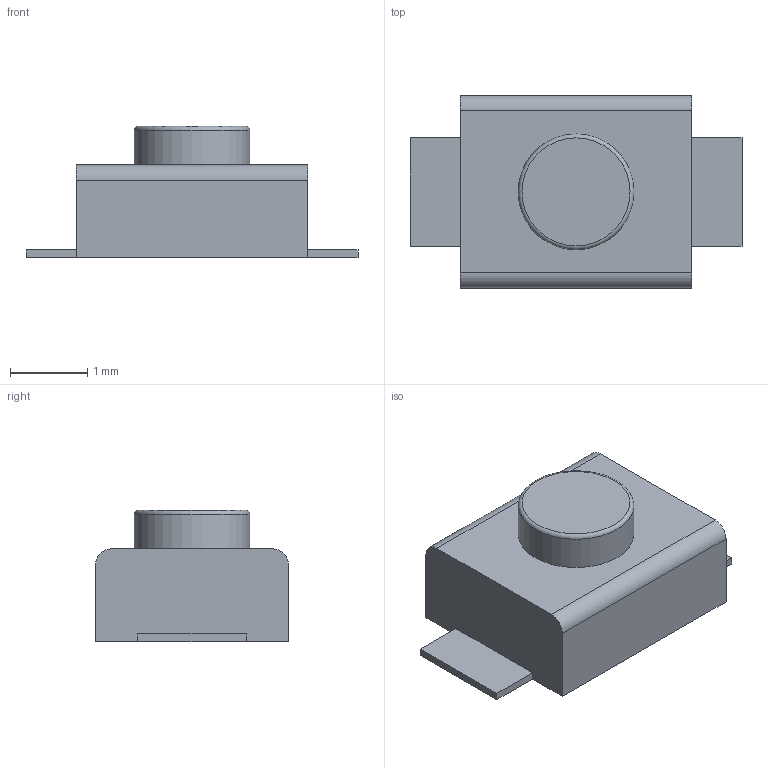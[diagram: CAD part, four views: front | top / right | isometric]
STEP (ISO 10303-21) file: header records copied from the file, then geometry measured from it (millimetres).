
FILE_DESCRIPTION(/* description */ ('STEP AP242 Edition 2','CAx-IF Rec.Pracs.---Representation and Presentation of Product Manufacturing Information (PMI)---4.0---2014-10-13','CAx-IF Rec.Pracs.---3D Tessellated Geometry---0.4---2014-09-14','2;1','CAx-IF Rec.Pracs.---User Defined Attributes---1.5---2016-08-15'),/* implementation_level */ '2;1');
FILE_NAME(/* name */ 'Assembly 1 - Button (1)_1',/* time_stamp */ '2026-09-16T18:36:09Z',/* author */ (''),/* organization */ (''),/* preprocessor_version */ 'ST-DEVELOPER v20',/* originating_system */ 'ONSHAPE BY PTC INC, 1.220',/* authorisation */ ' ');
FILE_SCHEMA (('AP242_MANAGED_MODEL_BASED_3D_ENGINEERING_MIM_LF { 1 0 10303 442 3 1 4 }'));
Length unit declared in the file: centimetre
Products named in the file (1): Button (1)_1
Bounding box: 4.3 x 2.5 x 1.7 mm (x, y, z)
Volume: 10 mm3; surface area: 33.8 mm2
Topology: 1 solids, 1 shells, 19 faces, 47 edges, 31 vertices
Faces by surface type: plane 15, cylinder 3, torus 1
Full cylindrical faces by diameter (mm): 1.5 x1
Entity records: 651 total; most frequent: CARTESIAN_POINT 96, DIRECTION 92, ORIENTED_EDGE 90, EDGE_CURVE 45, LINE 38, VECTOR 38, VERTEX_POINT 31, AXIS2_PLACEMENT_3D 27
